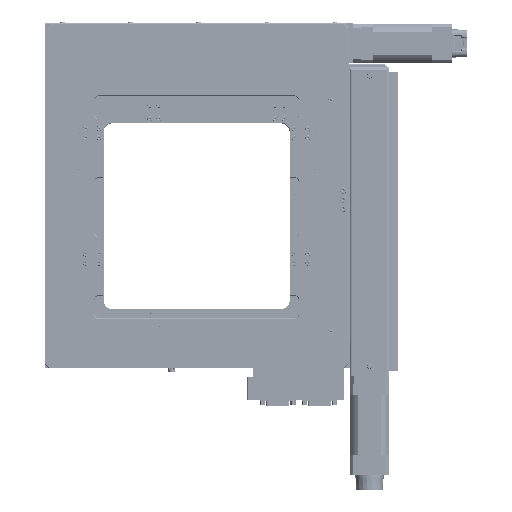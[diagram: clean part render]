
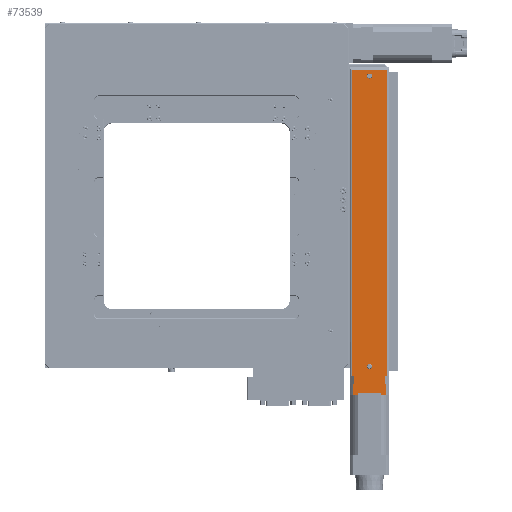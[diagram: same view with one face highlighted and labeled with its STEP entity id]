
A CAD part, top view. The second image highlights one B-rep face of the part: STEP entity #73539.
In plain terms, the highlighted planar face has unit normal (0, 0, 1).
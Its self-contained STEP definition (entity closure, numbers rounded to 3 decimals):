
#2573=LINE($,#112576,#9281);
#2574=LINE($,#112578,#9282);
#2575=LINE($,#112580,#9283);
#2576=LINE($,#112582,#9284);
#2577=LINE($,#112584,#9285);
#2578=LINE($,#112586,#9286);
#2579=LINE($,#112588,#9287);
#2580=LINE($,#112590,#9288);
#2581=LINE($,#112592,#9289);
#2582=LINE($,#112594,#9290);
#2583=LINE($,#112596,#9291);
#2584=LINE($,#112598,#9292);
#2585=LINE($,#112600,#9293);
#2586=LINE($,#112602,#9294);
#2587=LINE($,#112604,#9295);
#2588=LINE($,#112605,#9296);
#9281=VECTOR($,#90163,2.25);
#9282=VECTOR($,#90164,5.136);
#9283=VECTOR($,#90165,12.8);
#9284=VECTOR($,#90166,0.755);
#9285=VECTOR($,#90167,9.);
#9286=VECTOR($,#90168,2.);
#9287=VECTOR($,#90169,337.);
#9288=VECTOR($,#90170,38.);
#9289=VECTOR($,#90171,337.);
#9290=VECTOR($,#90172,2.);
#9291=VECTOR($,#90173,9.);
#9292=VECTOR($,#90174,0.755);
#9293=VECTOR($,#90175,12.8);
#9294=VECTOR($,#90176,5.136);
#9295=VECTOR($,#90177,2.25);
#9296=VECTOR($,#90178,25.239);
#16145=PLANE($,#79186);
#19077=FACE_BOUND($,#26369,.T.);
#19078=FACE_BOUND($,#26370,.T.);
#19079=FACE_BOUND($,#26371,.T.);
#26369=EDGE_LOOP($,(#55344));
#26370=EDGE_LOOP($,(#55345));
#26371=EDGE_LOOP($,(#55346,#55347,#55348,#55349,#55350,#55351,#55352,#55353,
#55354,#55355,#55356,#55357,#55358,#55359,#55360,#55361));
#31281=CIRCLE($,#79187,2.85);
#31282=CIRCLE($,#79188,2.85);
#34778=VERTEX_POINT($,#112570);
#34779=VERTEX_POINT($,#112572);
#34780=VERTEX_POINT($,#112574);
#34781=VERTEX_POINT($,#112575);
#34782=VERTEX_POINT($,#112577);
#34783=VERTEX_POINT($,#112579);
#34784=VERTEX_POINT($,#112581);
#34785=VERTEX_POINT($,#112583);
#34786=VERTEX_POINT($,#112585);
#34787=VERTEX_POINT($,#112587);
#34788=VERTEX_POINT($,#112589);
#34789=VERTEX_POINT($,#112591);
#34790=VERTEX_POINT($,#112593);
#34791=VERTEX_POINT($,#112595);
#34792=VERTEX_POINT($,#112597);
#34793=VERTEX_POINT($,#112599);
#34794=VERTEX_POINT($,#112601);
#34795=VERTEX_POINT($,#112603);
#42547=EDGE_CURVE($,#34778,#34778,#31281,.T.);
#42548=EDGE_CURVE($,#34779,#34779,#31282,.T.);
#42549=EDGE_CURVE($,#34780,#34781,#2573,.T.);
#42550=EDGE_CURVE($,#34782,#34781,#2574,.T.);
#42551=EDGE_CURVE($,#34783,#34782,#2575,.T.);
#42552=EDGE_CURVE($,#34783,#34784,#2576,.T.);
#42553=EDGE_CURVE($,#34785,#34784,#2577,.T.);
#42554=EDGE_CURVE($,#34785,#34786,#2578,.T.);
#42555=EDGE_CURVE($,#34786,#34787,#2579,.T.);
#42556=EDGE_CURVE($,#34788,#34787,#2580,.T.);
#42557=EDGE_CURVE($,#34788,#34789,#2581,.T.);
#42558=EDGE_CURVE($,#34789,#34790,#2582,.T.);
#42559=EDGE_CURVE($,#34791,#34790,#2583,.T.);
#42560=EDGE_CURVE($,#34791,#34792,#2584,.T.);
#42561=EDGE_CURVE($,#34792,#34793,#2585,.T.);
#42562=EDGE_CURVE($,#34794,#34793,#2586,.T.);
#42563=EDGE_CURVE($,#34794,#34795,#2587,.T.);
#42564=EDGE_CURVE($,#34795,#34780,#2588,.T.);
#55344=ORIENTED_EDGE($,*,*,#42547,.T.);
#55345=ORIENTED_EDGE($,*,*,#42548,.T.);
#55346=ORIENTED_EDGE($,*,*,#42549,.T.);
#55347=ORIENTED_EDGE($,*,*,#42550,.F.);
#55348=ORIENTED_EDGE($,*,*,#42551,.F.);
#55349=ORIENTED_EDGE($,*,*,#42552,.T.);
#55350=ORIENTED_EDGE($,*,*,#42553,.F.);
#55351=ORIENTED_EDGE($,*,*,#42554,.T.);
#55352=ORIENTED_EDGE($,*,*,#42555,.T.);
#55353=ORIENTED_EDGE($,*,*,#42556,.F.);
#55354=ORIENTED_EDGE($,*,*,#42557,.T.);
#55355=ORIENTED_EDGE($,*,*,#42558,.T.);
#55356=ORIENTED_EDGE($,*,*,#42559,.F.);
#55357=ORIENTED_EDGE($,*,*,#42560,.T.);
#55358=ORIENTED_EDGE($,*,*,#42561,.T.);
#55359=ORIENTED_EDGE($,*,*,#42562,.F.);
#55360=ORIENTED_EDGE($,*,*,#42563,.T.);
#55361=ORIENTED_EDGE($,*,*,#42564,.T.);
#73539=ADVANCED_FACE($,(#19077,#19078,#19079),#16145,.T.);
#79186=AXIS2_PLACEMENT_3D($,#112569,#90157,#90158);
#79187=AXIS2_PLACEMENT_3D($,#112571,#90159,#90160);
#79188=AXIS2_PLACEMENT_3D($,#112573,#90161,#90162);
#90157=DIRECTION('center_axis',(0.,0.,
1.));
#90158=DIRECTION('ref_axis',(-1.,0.,0.));
#90159=DIRECTION('center_axis',(0.,0.,
-1.));
#90160=DIRECTION('ref_axis',(0.,1.,0.));
#90161=DIRECTION('center_axis',(0.,0.,
-1.));
#90162=DIRECTION('ref_axis',(0.,1.,0.));
#90163=DIRECTION($,(0.,-1.,0.));
#90164=DIRECTION($,(-1.,0.,0.));
#90165=DIRECTION($,(0.,-1.,0.));
#90166=DIRECTION($,(-1.,0.,0.));
#90167=DIRECTION($,(0.,-1.,0.));
#90168=DIRECTION($,(1.,0.,0.));
#90169=DIRECTION($,(0.,1.,0.));
#90170=DIRECTION($,(1.,0.,0.));
#90171=DIRECTION($,(0.,-1.,0.));
#90172=DIRECTION($,(1.,0.,0.));
#90173=DIRECTION($,(0.,1.,0.));
#90174=DIRECTION($,(-1.,0.,0.));
#90175=DIRECTION($,(0.,-1.,0.));
#90176=DIRECTION($,(-1.,0.,0.));
#90177=DIRECTION($,(0.,1.,0.));
#90178=DIRECTION($,(1.,0.,0.));
#112569=CARTESIAN_POINT('Origin',(358.,-757.368,42.));
#112570=CARTESIAN_POINT('',(360.468,-416.943,42.));
#112571=CARTESIAN_POINT('Origin',(358.,-418.368,42.));
#112572=CARTESIAN_POINT('',(360.468,-736.943,42.));
#112573=CARTESIAN_POINT('Origin',(358.,-738.368,42.));
#112574=CARTESIAN_POINT('',(370.619,-767.918,42.));
#112575=CARTESIAN_POINT('',(370.619,-770.168,42.));
#112576=CARTESIAN_POINT($,(370.619,-770.168,42.));
#112577=CARTESIAN_POINT('',(375.755,-770.168,42.));
#112578=CARTESIAN_POINT($,(375.755,-770.168,42.));
#112579=CARTESIAN_POINT('',(375.755,-757.368,42.));
#112580=CARTESIAN_POINT($,(375.755,-757.368,42.));
#112581=CARTESIAN_POINT('',(375.,-757.368,42.));
#112582=CARTESIAN_POINT($,(375.755,-757.368,42.));
#112583=CARTESIAN_POINT('',(375.,-748.368,42.));
#112584=CARTESIAN_POINT($,(375.,-748.368,42.));
#112585=CARTESIAN_POINT('',(377.,-748.368,42.));
#112586=CARTESIAN_POINT($,(336.,-748.368,42.));
#112587=CARTESIAN_POINT('',(377.,-411.368,42.));
#112588=CARTESIAN_POINT($,(377.,-578.368,42.));
#112589=CARTESIAN_POINT('',(339.,-411.368,42.));
#112590=CARTESIAN_POINT($,(369.,-411.368,42.));
#112591=CARTESIAN_POINT('',(339.,-748.368,42.));
#112592=CARTESIAN_POINT($,(339.,-495.868,42.));
#112593=CARTESIAN_POINT('',(341.,-748.368,42.));
#112594=CARTESIAN_POINT($,(336.,-748.368,42.));
#112595=CARTESIAN_POINT('',(341.,-757.368,42.));
#112596=CARTESIAN_POINT($,(341.,-748.368,42.));
#112597=CARTESIAN_POINT('',(340.245,-757.368,42.));
#112598=CARTESIAN_POINT($,(375.755,-757.368,42.));
#112599=CARTESIAN_POINT('',(340.245,-770.168,42.));
#112600=CARTESIAN_POINT($,(340.245,-757.368,42.));
#112601=CARTESIAN_POINT('',(345.381,-770.168,42.));
#112602=CARTESIAN_POINT($,(375.755,-770.168,42.));
#112603=CARTESIAN_POINT('',(345.381,-767.918,42.));
#112604=CARTESIAN_POINT($,(345.381,-770.168,42.));
#112605=CARTESIAN_POINT($,(358.,-767.918,42.));
